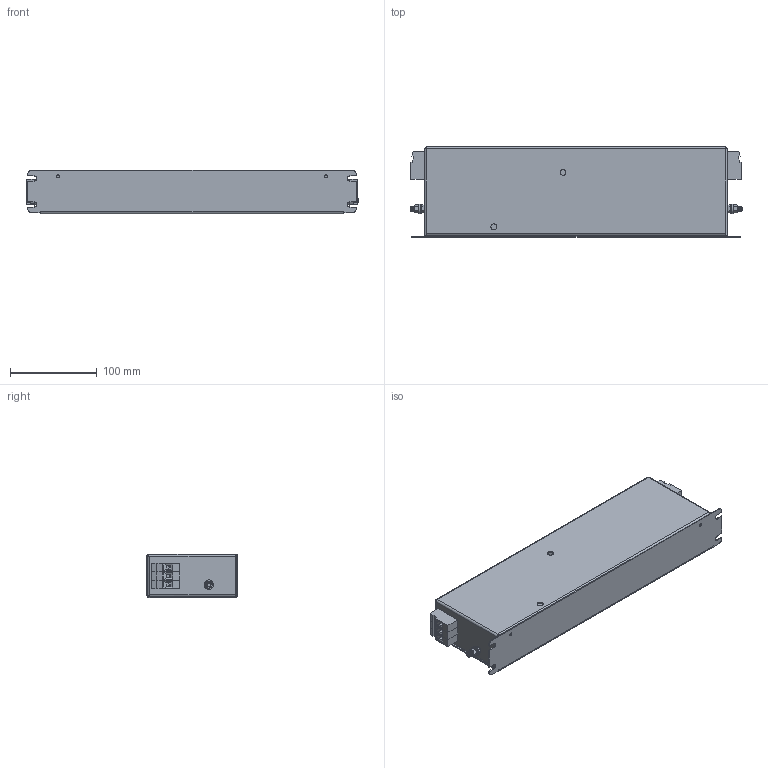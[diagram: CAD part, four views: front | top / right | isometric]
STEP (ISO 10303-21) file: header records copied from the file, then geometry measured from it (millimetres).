
FILE_DESCRIPTION (( 'STEP AP203' ), '1' );
FILE_NAME ('177010 NF-KC-DAR-40.STEP', '2017-07-25T14:20:57', ( '' ), ( '' ), 'SwSTEP 2.0', 'SolidWorks 2017', '' );
FILE_SCHEMA (( 'CONFIG_CONTROL_DESIGN' ));
Length unit declared in the file: millimetre
Products named in the file (9): VDFK6x3; 177010 NF-KC-DAR-40 case; 177010 NF-KC-DAR-40 lid; 177010 NF-KC-DAR-40; VDFK-6; hex screw_am_B18.6.7M - M5 x 0.8 x 13 Indented HHMS --13S; flat washer narrow_am_B18.22M - Plain washer, 5 mm, narrow; M5x13 Earth post; hex nut style 1_am_B18.2.4.1M - Hex nut, Style 1,  M5 x 0.8 --D-N
Assembly tree (13 placements, depth 3):
  177010 NF-KC-DAR-40
    177010 NF-KC-DAR-40 case
    177010 NF-KC-DAR-40 lid
    VDFK6x3  x2
      VDFK-6
    M5x13 Earth post  x2
      hex screw_am_B18.6.7M - M5 x 0.8 x 13 Indented HHMS --13S
      flat washer narrow_am_B18.22M - Plain washer, 5 mm, narrow
      hex nut style 1_am_B18.2.4.1M - Hex nut, Style 1,  M5 x 0.8 --D-N
Bounding box: 383.6 x 105 x 50 mm (x, y, z)
Volume: 181841.2 mm3; surface area: 273586.8 mm2
Topology: 16 solids, 16 shells, 840 faces, 2082 edges, 1302 vertices
Faces by surface type: plane 430, cylinder 234, cone 176
Entity records: 13288 total; most frequent: DIRECTION 2221, CARTESIAN_POINT 2206, ORIENTED_EDGE 2014, EDGE_CURVE 1007, AXIS2_PLACEMENT_3D 831, VERTEX_POINT 624, LINE 559, VECTOR 559
